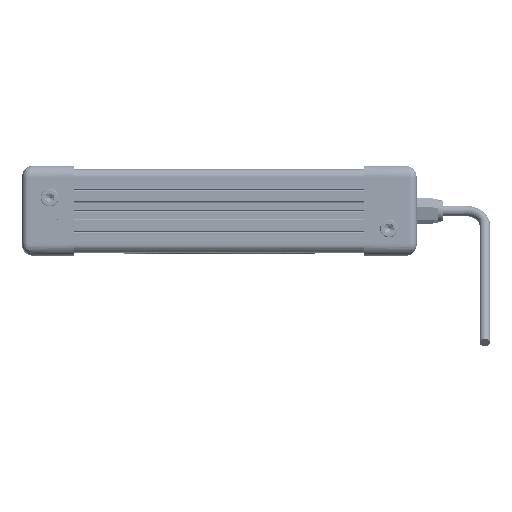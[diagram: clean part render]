
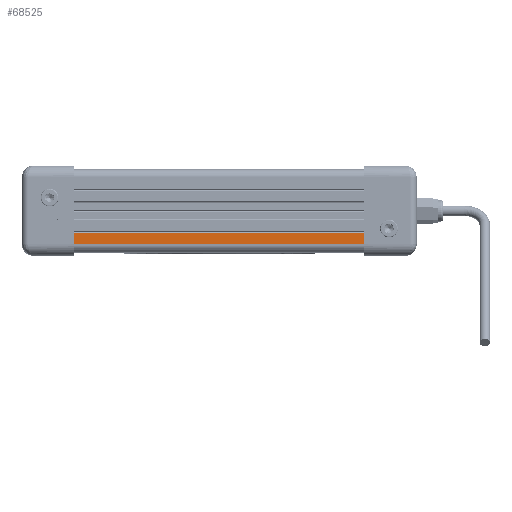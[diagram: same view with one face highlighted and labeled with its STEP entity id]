
A CAD part, front view. The second image highlights one B-rep face of the part: STEP entity #68525.
In plain terms, the highlighted planar face has unit normal (0, -1, 0) as drawn and (-1, 0, 0) by its records, which use the part's own axes.
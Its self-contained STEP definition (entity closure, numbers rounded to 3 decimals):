
#617 = VECTOR ( 'NONE', #66613, 1000. ) ;
#1034 = LINE ( 'NONE', #46410, #26412 ) ;
#7790 = EDGE_LOOP ( 'NONE', ( #58952, #12285, #33183, #48219 ) ) ;
#12285 = ORIENTED_EDGE ( 'NONE', *, *, #68538, .F. ) ;
#12618 = LINE ( 'NONE', #57991, #12662 ) ;
#12662 = VECTOR ( 'NONE', #58346, 1000. ) ;
#14133 = VERTEX_POINT ( 'NONE', #45236 ) ;
#16410 = CARTESIAN_POINT ( 'NONE',  ( -9., -16., 149. ) ) ;
#16756 = VERTEX_POINT ( 'NONE', #16410 ) ;
#17375 = EDGE_CURVE ( 'NONE', #71941, #46105, #1034, .T. ) ;
#19071 = LINE ( 'NONE', #70026, #617 ) ;
#22894 = EDGE_CURVE ( 'NONE', #46105, #14133, #36235, .T. ) ;
#26412 = VECTOR ( 'NONE', #69137, 1000. ) ;
#29420 = FACE_OUTER_BOUND ( 'NONE', #7790, .T. ) ;
#30139 = DIRECTION ( 'NONE',  ( 0., 1., 0. ) ) ;
#33183 = ORIENTED_EDGE ( 'NONE', *, *, #52783, .F. ) ;
#34574 = DIRECTION ( 'NONE',  ( 1., 0., 0. ) ) ;
#35304 = CARTESIAN_POINT ( 'NONE',  ( -9., -10.5, 149. ) ) ;
#35511 = CARTESIAN_POINT ( 'NONE',  ( -9., -10.5, 0. ) ) ;
#36235 = LINE ( 'NONE', #35511, #52829 ) ;
#45236 = CARTESIAN_POINT ( 'NONE',  ( -9., -16., 0. ) ) ;
#46105 = VERTEX_POINT ( 'NONE', #55904 ) ;
#46410 = CARTESIAN_POINT ( 'NONE',  ( -9., -10.5, 149. ) ) ;
#48219 = ORIENTED_EDGE ( 'NONE', *, *, #17375, .T. ) ;
#52783 = EDGE_CURVE ( 'NONE', #71941, #16756, #19071, .T. ) ;
#52829 = VECTOR ( 'NONE', #64156, 1000. ) ;
#55904 = CARTESIAN_POINT ( 'NONE',  ( -9., -10.5, 0. ) ) ;
#57991 = CARTESIAN_POINT ( 'NONE',  ( -9., -16., 149. ) ) ;
#58346 = DIRECTION ( 'NONE',  ( 0., 0., -1. ) ) ;
#58952 = ORIENTED_EDGE ( 'NONE', *, *, #22894, .T. ) ;
#59009 = AXIS2_PLACEMENT_3D ( 'NONE', #35304, #34574, #30139 ) ;
#63963 = PLANE ( 'NONE',  #59009 ) ;
#64156 = DIRECTION ( 'NONE',  ( 0., -1., 0. ) ) ;
#66613 = DIRECTION ( 'NONE',  ( 0., -1., 0. ) ) ;
#68525 = ADVANCED_FACE ( 'NONE', ( #29420 ), #63963, .F. ) ;
#68538 = EDGE_CURVE ( 'NONE', #16756, #14133, #12618, .T. ) ;
#69137 = DIRECTION ( 'NONE',  ( 0., 0., -1. ) ) ;
#70026 = CARTESIAN_POINT ( 'NONE',  ( -9., -10.5, 149. ) ) ;
#70202 = CARTESIAN_POINT ( 'NONE',  ( -9., -10.5, 149. ) ) ;
#71941 = VERTEX_POINT ( 'NONE', #70202 ) ;
